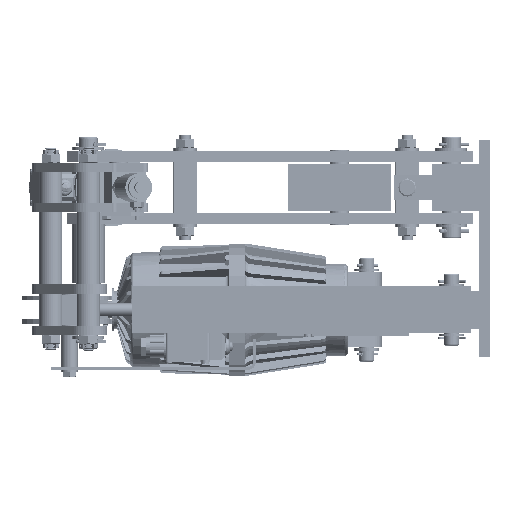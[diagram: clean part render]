
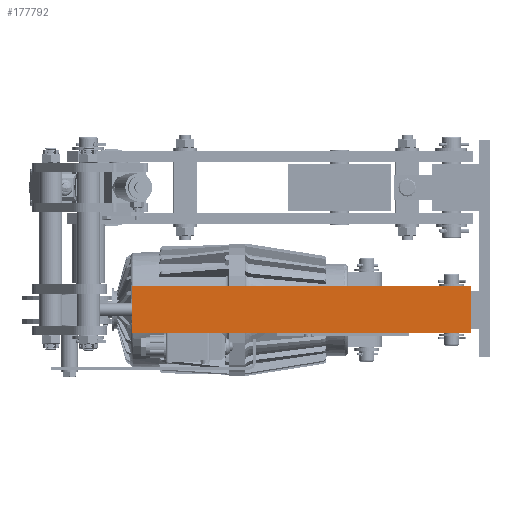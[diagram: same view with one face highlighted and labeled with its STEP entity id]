
A CAD part, left-side view. The second image highlights one B-rep face of the part: STEP entity #177792.
In plain terms, the highlighted planar face has unit normal (1, 0, 0).
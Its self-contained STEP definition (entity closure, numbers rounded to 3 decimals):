
#176504=DIRECTION('',(0.,-1.,0.));
#176505=VECTOR('',#176504,360.);
#176506=CARTESIAN_POINT('',(475.267,1024.646,
-119.996));
#176507=LINE('',#176506,#176505);
#176809=DIRECTION('',(0.,1.,0.));
#176810=VECTOR('',#176809,360.);
#176811=CARTESIAN_POINT('',(475.267,664.646,
-69.996));
#176812=LINE('',#176811,#176810);
#176931=DIRECTION('',(0.,0.,-1.));
#176932=VECTOR('',#176931,50.);
#176933=CARTESIAN_POINT('',(475.267,1024.646,
-69.996));
#176934=LINE('',#176933,#176932);
#176966=DIRECTION('',(0.,0.,-1.));
#176967=VECTOR('',#176966,50.);
#176968=CARTESIAN_POINT('',(475.267,664.646,
-69.996));
#176969=LINE('',#176968,#176967);
#177546=CARTESIAN_POINT('',(475.267,664.646,
-69.996));
#177548=VERTEX_POINT('',#177546);
#177551=CARTESIAN_POINT('',(475.267,664.646,
-119.996));
#177552=VERTEX_POINT('',#177551);
#177553=CARTESIAN_POINT('',(475.267,1024.646,
-69.996));
#177554=VERTEX_POINT('',#177553);
#177557=CARTESIAN_POINT('',(475.267,1024.646,
-119.996));
#177558=VERTEX_POINT('',#177557);
#177781=CARTESIAN_POINT('',(475.267,844.646,
-94.996));
#177782=DIRECTION('',(-1.,0.,0.));
#177783=DIRECTION('',(0.,-1.,0.));
#177784=AXIS2_PLACEMENT_3D('',#177781,#177782,#177783);
#177785=PLANE('',#177784);
#177786=ORIENTED_EDGE('',*,*,#177702,.F.);
#177787=ORIENTED_EDGE('',*,*,#177730,.T.);
#177788=ORIENTED_EDGE('',*,*,#177766,.T.);
#177789=ORIENTED_EDGE('',*,*,#177644,.T.);
#177790=EDGE_LOOP('',(#177786,#177787,#177788,#177789));
#177791=FACE_OUTER_BOUND('',#177790,.F.);
#177792=ADVANCED_FACE('',(#177791),#177785,.F.);
#177644=EDGE_CURVE('',#177558,#177552,#176507,.T.);
#177702=EDGE_CURVE('',#177548,#177552,#176969,.T.);
#177730=EDGE_CURVE('',#177548,#177554,#176812,.T.);
#177766=EDGE_CURVE('',#177554,#177558,#176934,.T.);
